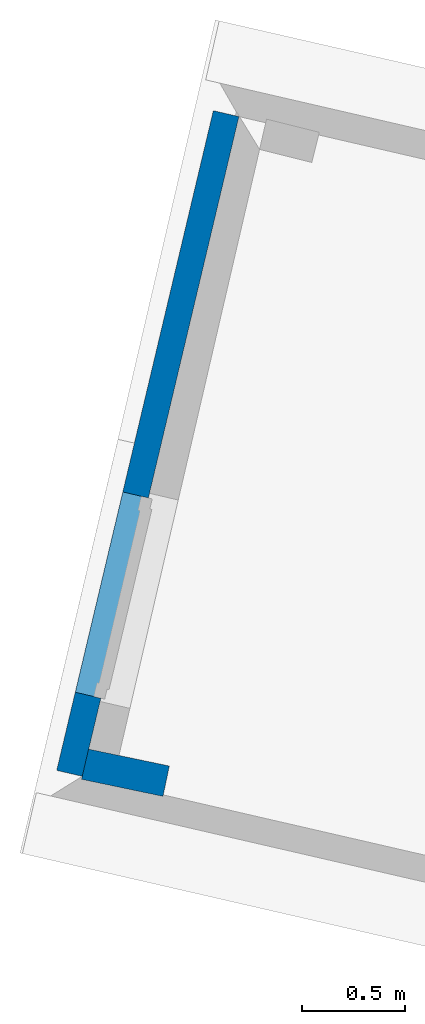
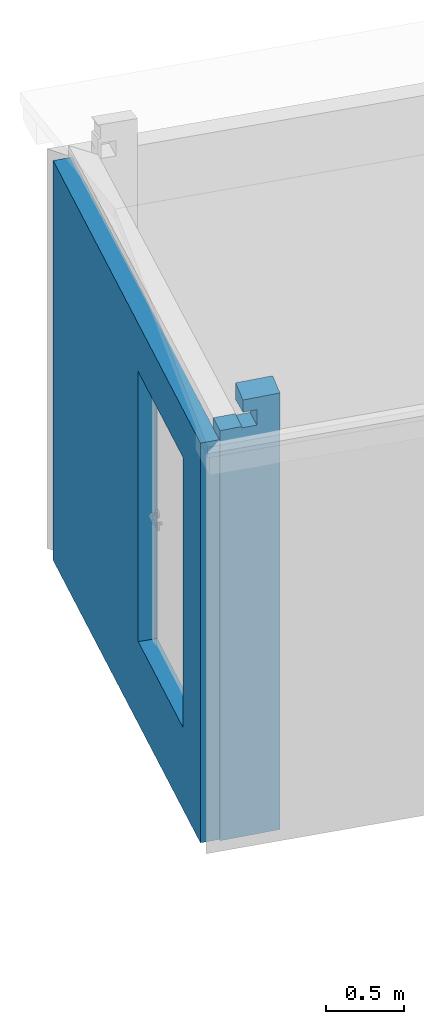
# One storey, part 111 of 196: 2 walls, 1 opening.
"""IFC2X3 building model written with IfcOpenShell, lengths in metres."""

from ifc_helpers import new_model, entity, si_unit, converted_unit, derived_unit, money_unit, direction, frame, origin_with_axes, origin_2d_with_axis, place, context, subcontext, project, spatial, polyline, rectangle, outline, extrude, boolean, faceted_brep, material, type_object, element, save


model = new_model("IFC2X3")

# Units and contexts
model_context = context("Model", 3, precision=1e-05, world=origin_with_axes(), true_north=direction((0.0, 1.0)))
body_context = subcontext(model_context, "Body", "Model", "MODEL_VIEW")
ifc_project = project(units=[si_unit("LENGTHUNIT", "METRE"), si_unit("AREAUNIT", "SQUARE_METRE"), si_unit("VOLUMEUNIT", "CUBIC_METRE"), converted_unit("PLANEANGLEUNIT", "DEGREE", entity("IfcPlaneAngleMeasure", 0.0174532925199), si_unit("PLANEANGLEUNIT", "RADIAN"), dimensions=[0, 0, 0, 0, 0, 0, 0]), money_unit("EUR"), converted_unit("TIMEUNIT", "Year", entity("IfcTimeMeasure", 31556926.0), si_unit("TIMEUNIT", "SECOND"), dimensions=[0, 0, 1, 0, 0, 0, 0]), si_unit("MASSUNIT", "GRAM", prefix="KILO"), si_unit("THERMODYNAMICTEMPERATUREUNIT", "DEGREE_CELSIUS"), si_unit("LUMINOUSINTENSITYUNIT", "LUMEN"), si_unit("ENERGYUNIT", "JOULE", prefix="MEGA"), derived_unit("THERMALCONDUCTANCEUNIT", [(si_unit("POWERUNIT", "WATT"), 1), (si_unit("LENGTHUNIT", "METRE"), -1), (si_unit("THERMODYNAMICTEMPERATUREUNIT", "KELVIN"), -1)]), derived_unit("SPECIFICHEATCAPACITYUNIT", [(si_unit("ENERGYUNIT", "JOULE"), 1), (si_unit("MASSUNIT", "GRAM", prefix="KILO"), -1), (si_unit("THERMODYNAMICTEMPERATUREUNIT", "KELVIN"), -1)]), derived_unit("MASSDENSITYUNIT", [(si_unit("MASSUNIT", "GRAM", prefix="KILO"), 1), (si_unit("VOLUMEUNIT", "CUBIC_METRE"), -1)])], contexts=[model_context])

# Site, building, storey
site_placement = place(None, origin_with_axes())
site = spatial("IfcSite", under=ifc_project, at=site_placement, Name="Gelände", CompositionType="ELEMENT")
building_placement = place(site_placement, origin_with_axes())
building = spatial("IfcBuilding", under=site, at=building_placement, Name="Gebäude", CompositionType="ELEMENT")
storey_placement = place(building_placement, frame((0.0, 0.0, -3.0), z_axis=(0.0, 0.0, 1.0), x_axis=(1.0, 0.0, 0.0)))
storey = spatial("IfcBuildingStorey", under=building, at=storey_placement, Name="KELLERGESCHOSS", CompositionType="ELEMENT", Elevation=-3.0)

# Wall
ifc_material = material(Name="05_ALLGEMEIN - TRAGENDE BAUTEILE")
wall_type_1 = type_object("IfcWallType", Name="05_ALLGEMEIN - TRAGENDE BAUTEILE 150", PredefinedType="ELEMENTEDWALL")
wall_1_placement = place(storey_placement, frame((-71.3441398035, 70.1750399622, 0.0), z_axis=(0.0, 0.0, 1.0), x_axis=(-0.978777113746, 0.204927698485, 0.0)))
element("IfcWall", 1, at=wall_1_placement, inside=storey, type_object=wall_type_1, material=ifc_material, Name="Wand-030", ObjectType="ELEMENTEDWALL", context=body_context, shape_type="CSG", body=[
    boolean("DIFFERENCE", boolean("DIFFERENCE", extrude(outline(polyline([(0.0, 0.0), (0.401949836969, 0.0), (0.401949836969, 0.15), (0.0, 0.15), (0.0, 0.0)])), origin_with_axes(), (0.0, 0.0, 1.0), 3.77095608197), faceted_brep([(0.397691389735, 0.0, 0.545), (0.397691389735, 0.0, 0.645), (0.0, 0.0, 0.645), (0.0, 0.0, 0.545), (0.401294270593, 0.134918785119, 0.545), (0.401294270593, 0.134918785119, 0.645), (0.0, 0.142881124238, 0.645), (0.0, 0.142881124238, 0.545)], [[[0, 1, 2, 3]], [[1, 0, 4, 5]], [[6, 2, 1, 5]], [[7, 3, 2, 6]], [[0, 3, 7, 4]], [[7, 6, 5, 4]]])), faceted_brep([(0.0, 0.15, 3.39602896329), (0.0, 0.0, 3.43078209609), (0.0, 0.0, 3.77095608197), (0.0, 0.15, 3.77095608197), (0.248677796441, 0.0, 3.42988550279), (0.248677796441, 0.15, 3.39513236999), (0.398712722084, 0.0, 3.19047733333), (0.398712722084, 0.0, 0.0), (0.401949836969, 0.0, 0.0), (0.401949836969, 0.0, 3.77095608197), (0.248677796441, 0.0, 3.29874565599), (0.151360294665, 0.0, 3.29872585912), (0.151360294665, 0.0, 3.17872279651), (0.251400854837, 0.0, 3.17874314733), (0.251400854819, 0.0, 3.19047733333), (0.401949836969, 0.15, 3.77095608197), (0.401949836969, 0.15, 3.19047733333), (0.255673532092, 0.15, 3.19047733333), (0.255673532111, 0.15, 3.17981525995), (0.155632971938, 0.15, 3.17979490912), (0.155632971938, 0.15, 3.29979797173), (0.248677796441, 0.15, 3.29981689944), (0.401949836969, 0.15, 0.0)], [[[0, 1, 2, 3]], [[4, 1, 0, 5]], [[6, 7, 8, 9, 2, 1, 4, 10, 11, 12, 13, 14]], [[3, 2, 9, 15]], [[5, 0, 3, 15, 16, 17, 18, 19, 20, 21]], [[10, 4, 5, 21]], [[7, 6, 16, 22]], [[7, 22, 8]], [[22, 16, 15, 9, 8]], [[11, 10, 21, 20]], [[12, 11, 20, 19]], [[13, 12, 19, 18]], [[14, 13, 18, 17]], [[6, 14, 17, 16]]])),
])

# Wall, opening
wall_type_2 = type_object("IfcWallType", Name="05_ALLGEMEIN - TRAGENDE BAUTEILE 127", PredefinedType="ELEMENTEDWALL")
wall_2_placement = place(storey_placement, frame((-71.1313780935, 73.3420522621, 0.0), z_axis=(0.0, 0.0, 1.0), x_axis=(-0.230982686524, -0.972957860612, 0.0)))
wall_2 = element("IfcWall", 2, at=wall_2_placement, inside=storey, type_object=wall_type_2, material=ifc_material, Name="Wand-028", ObjectType="ELEMENTEDWALL", context=body_context, shape_type="CSG", body=[
    boolean("DIFFERENCE", boolean("DIFFERENCE", extrude(outline(polyline([(-0.137462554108, 0.0), (3.4039378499, 0.0), (3.4039378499, 0.12696716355), (-0.137462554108, 0.12696716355), (-0.137462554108, 0.0)])), origin_with_axes(), (0.0, 0.0, 1.0), 3.1099946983), faceted_brep([(3.27609685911, 0.12696716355, 0.0), (3.27609685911, 0.12696716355, 3.1099946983), (3.4039378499, 0.12696716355, 3.1099946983), (3.4039378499, 0.12696716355, 0.0), (3.27696769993, 0.0, 3.1099946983), (3.27696769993, 0.0, 0.0), (3.4039378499, 0.0, 3.1099946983), (3.4039378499, 0.0, 0.0)], [[[0, 1, 2, 3]], [[4, 1, 0, 5]], [[1, 4, 6, 2]], [[6, 7, 3, 2]], [[5, 0, 3, 7]], [[4, 5, 7, 6]]])), faceted_brep([(0.0, 0.0, 3.1099946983), (-0.00081834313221, 0.12696716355, 3.1099946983), (-0.137462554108, 0.12696716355, 3.1099946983), (-0.137462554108, 0.0, 3.1099946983), (-0.00081834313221, 0.12696716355, 0.0), (0.0, 0.0, 0.0), (-0.137462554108, 0.12696716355, 0.0), (-0.137462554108, 0.0, 0.0)], [[[0, 1, 2, 3]], [[4, 1, 0, 5]], [[1, 4, 6, 2]], [[2, 6, 7, 3]], [[5, 0, 3, 7]], [[4, 5, 7, 6]]])),
])
opening_placement = place(wall_2_placement, frame((2.39104586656, 0.0, 0.637109), z_axis=(0.0, 0.0, 1.0), x_axis=(1.0, 0.0, 0.0)))
element("IfcOpeningElement", 3, at=opening_placement, cuts=wall_2, Name="Tür-026", context=body_context, shape_type="SweptSolid", body=[
    extrude(rectangle(XDim=0.994787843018, YDim=2.101288, at=origin_2d_with_axis()), frame((0.0, 0.0909529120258, 1.050644), z_axis=(0.0, 1.0, 0.0), x_axis=(1.0, 0.0, 0.0)), (0.0, 0.0, -1.0), 0.217920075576),
    extrude(rectangle(XDim=0.994787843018, YDim=2.101288, at=origin_2d_with_axis()), frame((0.0, 0.0909529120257, 1.050644), z_axis=(0.0, -1.0, 0.0), x_axis=(1.0, 0.0, 0.0)), (0.0, 0.0, -1.0), 0.162981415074),
])

save(model, "model.ifc")
